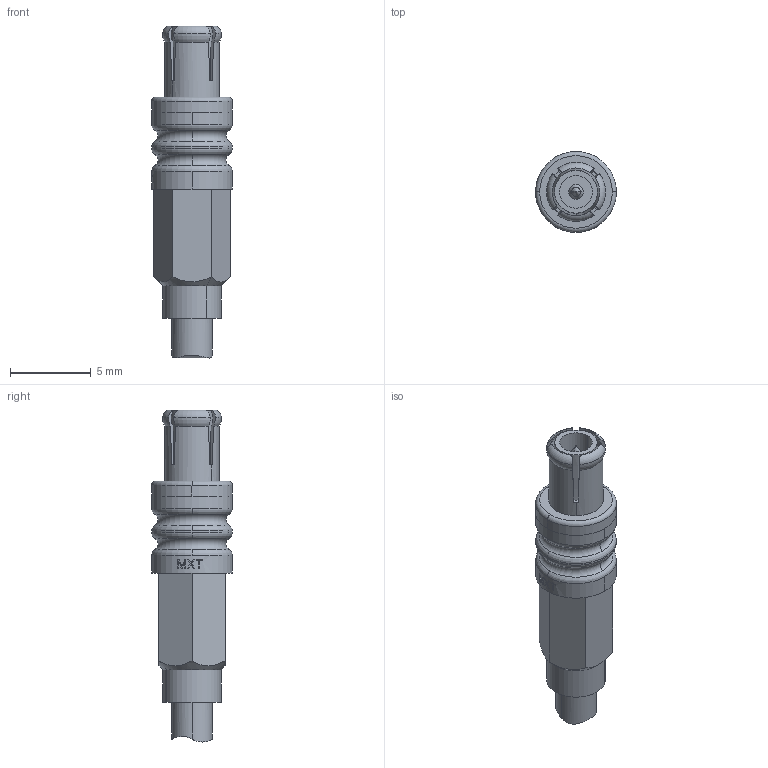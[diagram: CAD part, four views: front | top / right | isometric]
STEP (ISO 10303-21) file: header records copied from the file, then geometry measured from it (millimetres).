
FILE_DESCRIPTION((''),'2;1');
FILE_NAME('733660026','2018-08-28T',('gga'),(''),'PRO/ENGINEER BY PARAMETRIC TECHNOLOGY CORPORATION, 2016010','PRO/ENGINEER BY PARAMETRIC TECHNOLOGY CORPORATION, 2016010','');
FILE_SCHEMA(('CONFIG_CONTROL_DESIGN'));
Length unit declared in the file: millimetre
Products named in the file (1): 733660026
Bounding box: 5 x 5 x 20.56 mm (x, y, z)
Volume: 247.6 mm3; surface area: 384.4 mm2
Topology: 1 solids, 1 shells, 133 faces, 372 edges, 249 vertices
Faces by surface type: plane 57, cylinder 33, torus 28, cone 10, bspline 4, extrusion 1
Entity records: 4710 total; most frequent: CARTESIAN_POINT 1305, ORIENTED_EDGE 744, DIRECTION 684, EDGE_CURVE 372, AXIS2_PLACEMENT_3D 291, VERTEX_POINT 249, CIRCLE 162, EDGE_LOOP 141
